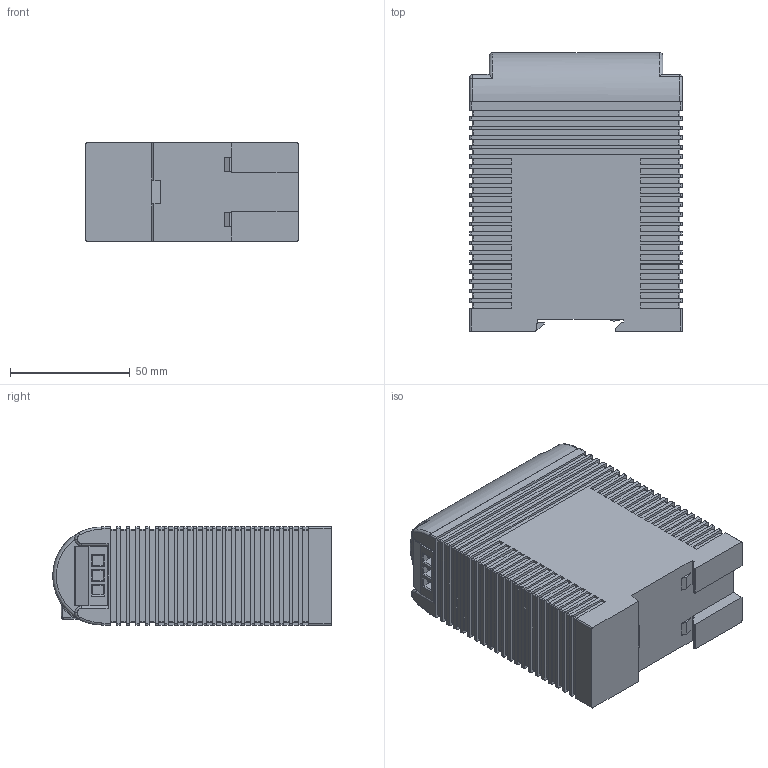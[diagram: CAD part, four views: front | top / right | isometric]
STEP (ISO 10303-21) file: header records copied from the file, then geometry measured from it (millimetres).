
FILE_DESCRIPTION((''),'2;1');
FILE_NAME('PRT0002','2009-12-15T',('rd13'),(''),'PRO/ENGINEER BY PARAMETRIC TECHNOLOGY CORPORATION, 2008230','PRO/ENGINEER BY PARAMETRIC TECHNOLOGY CORPORATION, 2008230','');
FILE_SCHEMA(('AUTOMOTIVE_DESIGN { 1 2 10303 214 0 1 1 1 }'));
Length unit declared in the file: millimetre
Products named in the file (1): PRT0002
Bounding box: 88.5 x 116.15 x 41 mm (x, y, z)
Volume: 382713.5 mm3; surface area: 45918 mm2
Topology: 1 solids, 1 shells, 749 faces, 2114 edges, 1379 vertices
Faces by surface type: plane 475, cylinder 225, torus 29, bspline 17, sphere 3
Entity records: 33496 total; most frequent: CARTESIAN_POINT 5706, ORIENTED_EDGE 4222, DIRECTION 4092, PRESENTATION_STYLE_ASSIGNMENT 2249, STYLED_ITEM 2112, CURVE_STYLE 2111, EDGE_CURVE 2111, VECTOR 1498
